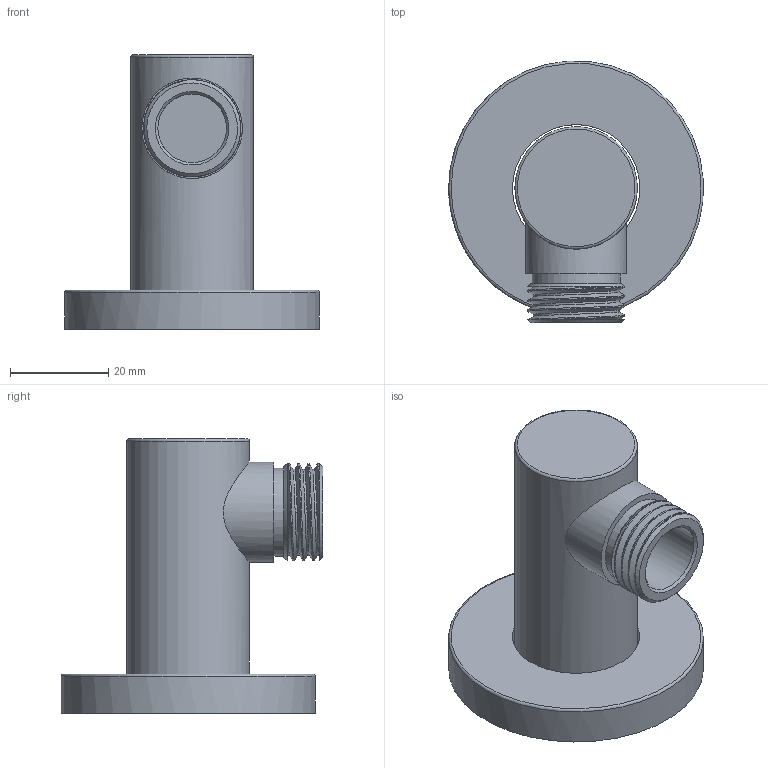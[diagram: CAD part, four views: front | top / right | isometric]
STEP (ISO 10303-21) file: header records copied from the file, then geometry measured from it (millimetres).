
FILE_DESCRIPTION(/* description */ (''),/* implementation_level */ '2;1');
FILE_NAME(/* name */ 'c:\worker\convert-fusion-r09\tmp\job-1\14\output\files\7e4d3777-5e83-4262-b7fb-639a75006a48\fd2f6c5c-2368-4e38-8e7f-17e74a9f96c4.stp',/* time_stamp */ '2019-12-14T18:00:24+00:00',/* author */ (''),/* organization */ (''),/* preprocessor_version */ 'ST-DEVELOPER v18',/* originating_system */ 'Autodesk Translation Framework v8.12.0.6',/* authorisation */ '');
FILE_SCHEMA (('AUTOMOTIVE_DESIGN { 1 0 10303 214 3 1 1 }'));
Length unit declared in the file: millimetre
Products named in the file (2): !S008; Omnires S008
Assembly tree (1 placements, depth 2):
  !S008
    Omnires S008
Bounding box: 51.94 x 53.44 x 56 mm (x, y, z)
Volume: 42180.8 mm3; surface area: 12673.4 mm2
Topology: 2 solids, 2 shells, 32 faces, 79 edges, 55 vertices
Faces by surface type: cylinder 15, plane 10, cone 3, bspline 2, torus 2
Full cylindrical faces by diameter (mm): 14 x1, 17.534 x3, 18 x1, 19.822 x2, 20.5 x1, 25 x1, 26 x1, 52 x1
Entity records: 2314 total; most frequent: CARTESIAN_POINT 1500, DIRECTION 162, ORIENTED_EDGE 158, EDGE_CURVE 79, AXIS2_PLACEMENT_3D 73, VERTEX_POINT 55, CIRCLE 40, EDGE_LOOP 38
